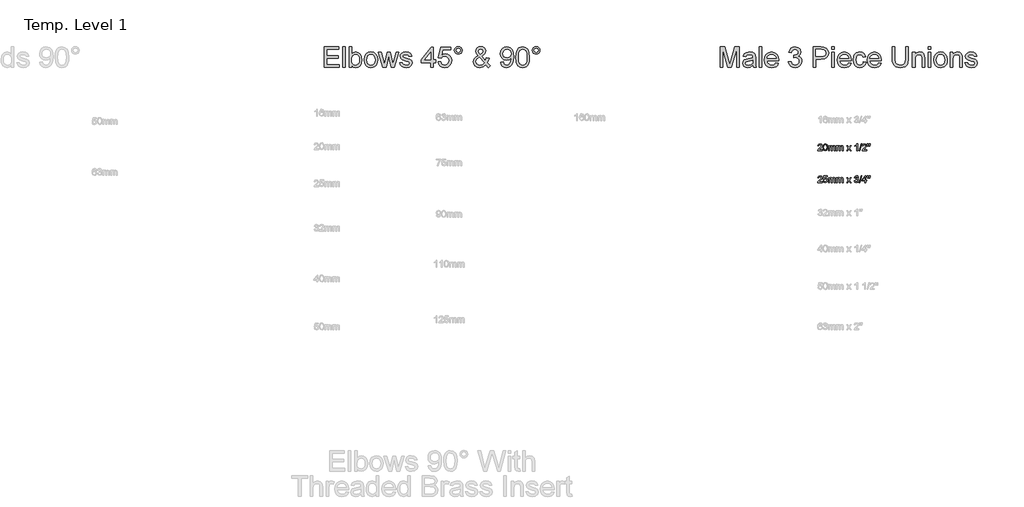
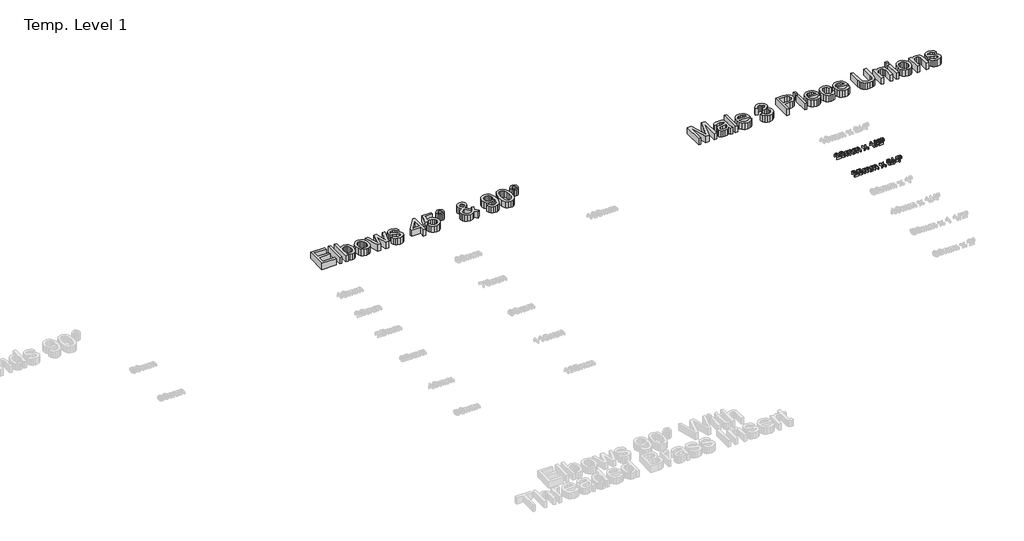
# One storey, part 62 of 62: 4 proxies.
"""IFC4 building model written with IfcOpenShell, lengths in millimetres."""

from ifc_helpers import new_model, si_unit, origin, origin_with_axes, place, context, project, spatial, polyline, outline, extrude, element, save

model = new_model("IFC4")

# Units and contexts
model_context = context("Model", 3, world=origin())
ifc_project = project(units=[si_unit("LENGTHUNIT", "METRE", prefix="MILLI")], contexts=[model_context])

# Site, building, storey
site = spatial("IfcSite", under=ifc_project)
building = spatial("IfcBuilding", under=site)
storey = spatial("IfcBuildingStorey", under=building, Name="Temp. Level 1", Elevation=0.0)

# Proxies
placement = place(None, origin())
element("IfcBuildingElementProxy", 1, Name="150mm Arial", ObjectType="150mm Arial", at=placement, inside=storey, context=model_context, shape_type="SweptSolid", body=[
    extrude(outline(polyline([(23642.6560981, 1929.801483), (23642.6560981, 2077.4937907), (23748.8099442, 2077.4937907), (23748.8099442, 2059.0322522), (23661.1176365, 2059.0322522), (23661.1176365, 2015.1860984), (23744.1945596, 2015.1860984), (23744.1945596, 1996.7245599), (23661.1176365, 1996.7245599), (23661.1176365, 1948.2630214), (23751.1176365, 1948.2630214), (23751.1176365, 1929.801483), (23642.6560981, 1929.801483)])), origin_with_axes(), (0.0, 0.0, 1.0), 50.0),
    extrude(outline(polyline([(23776.5022519, 1929.801483), (23776.5022519, 2077.4937907), (23794.9637904, 2077.4937907), (23794.9637904, 1929.801483), (23776.5022519, 1929.801483)])), origin_with_axes(), (0.0, 0.0, 1.0), 50.0),
    extrude(outline(polyline([(23841.1176365, 1929.801483), (23822.6560981, 1929.801483), (23822.6560981, 2077.4937907), (23841.1176365, 2077.4937907), (23841.1176365, 2022.7221561), (23854.0443192, 2036.1085743), (23870.1080212, 2040.5707138), (23888.6056173, 2036.5502811), (23902.9565788, 2025.2461945), (23911.7726846, 2007.6680695), (23914.9637904, 1985.6548484), (23911.6600043, 1961.0094157), (23901.7486462, 1942.6740791), (23887.2038745, 1931.2888628), (23869.9998481, 1927.4937907), (23853.5845837, 1932.3886224), (23841.1176365, 1947.0731176), (23841.1176365, 1929.801483)]), holes=[polyline([(23841.1176365, 1984.7894638), (23842.3796558, 1969.3928291), (23846.1657135, 1958.9721561), (23855.8381894, 1949.2095359), (23868.4133096, 1945.9553291), (23879.0683577, 1948.3531657), (23888.172925, 1955.5466753), (23894.4199202, 1967.4907859), (23896.5022519, 1984.1404253), (23894.5055572, 2001.0334541), (23888.5154731, 2012.8423484), (23879.6948601, 2019.7924686), (23869.2065788, 2022.1091753), (23858.5515308, 2019.7113388), (23849.4469635, 2012.5178291), (23843.1999683, 2000.7900647), (23841.1176365, 1984.7894638)])]), origin_with_axes(), (0.0, 0.0, 1.0), 50.0),
    extrude(outline(polyline([(23931.1176365, 1984.0322522), (23935.111026, 2010.1830936), (23947.0911942, 2028.5635022), (23961.8928769, 2037.5689109), (23979.6152327, 2040.5707138), (23999.0097639, 2036.9153652), (24014.50105, 2025.9493195), (24024.6557976, 2008.5379613), (24028.0407135, 1985.5466753), (24026.5443192, 1966.8958339), (24022.0551365, 1952.6981176), (24014.7038745, 1942.0656056), (24004.6212423, 1934.1103772), (23992.6455813, 1929.1479373), (23979.6152327, 1927.4937907), (23959.9863264, 1931.1356176), (23944.5130692, 1942.0610984), (23934.4664947, 1959.8375407), (23931.1176365, 1984.0322522)]), holes=[polyline([(23949.579175, 1984.0683099), (23951.7155933, 1967.3600767), (23958.1248481, 1955.4565311), (23967.7702808, 1948.3306296), (23979.6152327, 1945.9553291), (23991.4060981, 1948.3441513), (24001.0335019, 1955.5106176), (24007.4427567, 1967.5719157), (24009.579175, 1984.645233), (24007.4292351, 2000.8666873), (24000.9794154, 2012.6079734), (23991.3384899, 2019.7338748), (23979.6152327, 2022.1091753), (23967.7702808, 2019.7428892), (23958.1248481, 2012.6440311), (23951.7155933, 2000.7675287), (23949.579175, 1984.0683099)])]), origin_with_axes(), (0.0, 0.0, 1.0), 50.0),
    extrude(outline(polyline([(24066.8027327, 1929.801483), (24033.8099442, 2038.2630214), (24052.9926365, 2038.2630214), (24071.7065788, 1974.9817714), (24077.2955212, 1952.3735984), (24081.8748481, 1974.1524445), (24096.766675, 2038.2630214), (24118.7618673, 2038.2630214), (24133.5815788, 1974.332733), (24137.6560981, 1954.6091753), (24143.4974442, 1975.4144638), (24162.2474442, 2038.2630214), (24181.5022519, 2038.2630214), (24148.2570596, 1929.801483), (24125.9373481, 1929.801483), (24111.766675, 1993.4072522), (24107.6560981, 2013.238983), (24089.3748481, 1929.801483), (24066.8027327, 1929.801483)])), origin_with_axes(), (0.0, 0.0, 1.0), 50.0),
    extrude(outline(polyline([(24187.2714827, 1962.1091753), (24205.7330212, 1964.4168676), (24208.6446798, 1956.520233), (24214.2786942, 1950.7149445), (24233.8580212, 1945.9553291), (24252.6801365, 1950.3183099), (24258.8099442, 1960.5586945), (24252.6440788, 1968.8519638), (24233.641675, 1974.1163868), (24205.8411942, 1983.1488388), (24193.7077808, 1993.6957138), (24189.579175, 2008.5875407), (24192.8964827, 2022.3435503), (24201.9469635, 2032.8543676), (24213.6837423, 2038.317108), (24229.5671558, 2040.5707138), (24252.0310981, 2036.9469157), (24266.3099442, 2027.1392234), (24272.6560981, 2010.5707138), (24254.1945596, 2008.2630214), (24247.2534538, 2018.4493195), (24231.0094635, 2022.1091753), (24213.3411942, 2018.6115791), (24208.0407135, 2010.4625407), (24210.2402327, 2005.0899445), (24217.1272519, 2001.0154253), (24233.0286942, 1997.0851368), (24260.12605, 1988.395233), (24272.7101846, 1978.551483), (24277.2714827, 1962.5058099), (24271.9169154, 1944.8375407), (24256.4661942, 1932.0190311), (24233.6056173, 1927.4937907), (24214.9908337, 1929.6752811), (24201.4060981, 1936.2197522), (24192.3375885, 1947.0550888), (24187.2714827, 1962.1091753)])), origin_with_axes(), (0.0, 0.0, 1.0), 50.0),
    extrude(outline(polyline([(24411.1176365, 1929.801483), (24411.1176365, 1964.4168676), (24344.1945596, 1964.4168676), (24344.1945596, 1982.8784061), (24415.7330212, 2075.1860984), (24429.579175, 2075.1860984), (24429.579175, 1982.8784061), (24448.0407135, 1982.8784061), (24448.0407135, 1964.4168676), (24429.579175, 1964.4168676), (24429.579175, 1929.801483), (24411.1176365, 1929.801483)]), holes=[polyline([(24411.1176365, 1982.8784061), (24411.1176365, 2039.9216753), (24366.9109058, 1982.8784061), (24411.1176365, 1982.8784061)])]), origin_with_axes(), (0.0, 0.0, 1.0), 50.0),
    extrude(outline(polyline([(24464.1945596, 1969.0322522), (24482.6560981, 1971.3399445), (24486.0455212, 1960.2567113), (24491.9589827, 1952.3195118), (24500.3694394, 1947.5463748), (24511.2498481, 1945.9553291), (24524.4830212, 1948.16837), (24534.3988865, 1954.8074926), (24540.5917952, 1965.106471), (24542.6560981, 1978.2990791), (24540.7225043, 1990.7209541), (24534.9217231, 2000.2221561), (24525.2086822, 2006.2528051), (24511.5383096, 2008.2630214), (24495.3303769, 2005.0538868), (24484.9637904, 1996.7245599), (24466.5022519, 1999.0322522), (24482.6560981, 2075.1860984), (24554.1945596, 2075.1860984), (24554.1945596, 2056.7245599), (24497.5839827, 2056.7245599), (24489.6873481, 2016.051483), (24502.875449, 2024.0562907), (24516.6945596, 2026.7245599), (24533.9436582, 2023.4162666), (24548.2630692, 2013.4913868), (24557.9039947, 1998.3651849), (24561.1176365, 1979.4529253), (24558.2240067, 1960.9913868), (24549.5431173, 1945.1981176), (24532.9205212, 1931.9198724), (24511.1777327, 1927.4937907), (24493.0452207, 1930.3378412), (24478.5996077, 1938.8699926), (24468.6972639, 1952.0986585), (24464.1945596, 1969.0322522)])), origin_with_axes(), (0.0, 0.0, 1.0), 50.0),
    extrude(outline(polyline([(24581.8868673, 2052.145233), (24583.9196197, 2062.7912666), (24590.0178769, 2071.7245599), (24598.9646918, 2077.7822522), (24609.5431173, 2079.801483), (24620.2432375, 2077.7822522), (24629.1945596, 2071.7245599), (24635.2522519, 2062.7912666), (24637.2714827, 2052.145233), (24635.2387303, 2041.512721), (24629.1404731, 2032.5478772), (24620.1756293, 2026.44962), (24609.5431173, 2024.4168676), (24598.9646918, 2026.4360984), (24590.0178769, 2032.4937907), (24583.9196197, 2041.4451128), (24581.8868673, 2052.145233)]), holes=[polyline([(24593.4253288, 2052.1091753), (24598.1669154, 2040.6788868), (24609.6152327, 2035.9553291), (24620.9914346, 2040.6788868), (24625.7330212, 2052.1091753), (24620.9914346, 2063.5394638), (24609.6152327, 2068.2630214), (24598.1669154, 2063.5394638), (24593.4253288, 2052.1091753)])]), origin_with_axes(), (0.0, 0.0, 1.0), 50.0),
    extrude(outline(polyline([(24807.3556173, 1948.0466753), (24787.7762904, 1932.6320118), (24764.8796558, 1927.4937907), (24744.5070596, 1931.2978772), (24728.8219635, 1942.7101368), (24720.736026, 1955.8441513), (24718.0407135, 1970.4385022), (24720.2086822, 1983.3741993), (24726.7125885, 1994.9937907), (24737.5253889, 2005.2882618), (24752.6200404, 2014.2485984), (24739.7294154, 2032.926483), (24736.5022519, 2046.7726368), (24739.0443192, 2059.2395839), (24746.6705212, 2069.957733), (24758.1458817, 2077.3405455), (24772.235425, 2079.801483), (24785.6398721, 2077.4487186), (24796.3580212, 2070.3904253), (24803.3892712, 2060.0328532), (24805.7330212, 2047.7822522), (24803.9977447, 2037.4967955), (24798.7919154, 2027.9865791), (24777.9685981, 2011.2918676), (24804.6873481, 1978.0106176), (24812.6560981, 1998.4553291), (24831.1176365, 1994.4529253), (24818.0647519, 1964.0562907), (24840.3484058, 1941.7005214), (24826.5022519, 1927.4937907), (24807.3556173, 1948.0466753)]), holes=[polyline([(24794.9878288, 1961.3519638), (24762.0310981, 2002.4937907), (24741.7486462, 1987.0250407), (24736.5022519, 1972.8904253), (24738.2961221, 1964.1824926), (24743.6777327, 1955.1500407), (24752.3496077, 1948.254007), (24764.0142712, 1945.9553291), (24780.9794154, 1950.2461945), (24794.9878288, 1961.3519638)]), polyline([(24768.6296558, 2022.9385022), (24783.8099442, 2034.3868195), (24787.2714827, 2045.2582138), (24782.7101846, 2056.8507618), (24771.297925, 2061.3399445), (24759.6332615, 2056.8868195), (24754.9637904, 2046.0154253), (24756.5503288, 2039.254608), (24761.3460019, 2031.7365791), (24768.6296558, 2022.9385022)])]), origin_with_axes(), (0.0, 0.0, 1.0), 50.0),
    extrude(outline(polyline([(24914.1945596, 1966.7245599), (24932.6560981, 1969.0322522), (24935.8111462, 1958.5529854), (24940.9493673, 1951.4180695), (24956.6705212, 1945.9553291), (24971.6164346, 1949.4709541), (24981.7486462, 1958.863983), (24987.7883096, 1974.9096561), (24990.4565788, 1996.3279253), (24990.3484058, 1999.9336945), (24975.5827808, 1985.9433099), (24955.3363865, 1980.5707138), (24938.5019514, 1983.8519638), (24924.4890308, 1993.6957138), (24915.0374082, 2008.9030455), (24911.8868673, 2028.2750407), (24915.1906534, 2048.2870599), (24925.1020115, 2063.9721561), (24939.9893313, 2074.113382), (24958.2210019, 2077.4937907), (24971.9905332, 2075.5647041), (24984.5250885, 2069.7774445), (24995.0088625, 2060.4204734), (25002.62605, 2047.7822522), (25007.2639707, 2030.3123003), (25008.8099442, 2006.4601368), (25007.2684779, 1981.1701729), (25002.6440788, 1961.6223964), (24994.977312, 1946.933394), (24984.3087423, 1936.2197522), (24971.0981053, 1929.6752811), (24955.8051365, 1927.4937907), (24940.0208817, 1930.0674085), (24927.4277327, 1937.7882618), (24918.6206413, 1950.1695719), (24914.1945596, 1966.7245599)]), holes=[polyline([(24990.3484058, 2028.707733), (24988.3562183, 2041.2197522), (24982.3796558, 2050.8471561), (24973.1038144, 2056.9859782), (24961.2137904, 2059.0322522), (24948.8820596, 2056.8282258), (24939.0022519, 2050.2161464), (24932.5118673, 2040.0974565), (24930.3484058, 2027.3735984), (24932.3946798, 2015.965846), (24938.5335019, 2006.910858), (24948.1699202, 2001.0019037), (24960.7089827, 1999.0322522), (24972.5043553, 2001.0019037), (24982.00105, 2006.910858), (24988.2615668, 2016.2993796), (24990.3484058, 2028.707733)])]), origin_with_axes(), (0.0, 0.0, 1.0), 50.0),
    extrude(outline(polyline([(25024.9637904, 2002.457733), (25026.3204611, 2026.0980575), (25030.3904731, 2044.9517234), (25037.1332615, 2059.3071921), (25046.5082615, 2069.4529253), (25058.5830813, 2075.4835743), (25073.4253288, 2077.4937907), (25094.9878288, 2072.7341753), (25109.8796558, 2059.0142234), (25118.5335019, 2037.1632618), (25121.8868673, 2002.457733), (25120.5437183, 1978.9526248), (25116.5142712, 1960.1440311), (25109.8120476, 1945.7750407), (25100.4505692, 1935.5887426), (25088.3487063, 1929.5175287), (25073.4253288, 1927.4937907), (25054.2426365, 1931.0094157), (25039.6753288, 1941.5562907), (25028.641675, 1966.535257), (25024.9637904, 2002.457733)]), holes=[polyline([(25043.4253288, 2002.4937907), (25045.5887904, 1973.4538267), (25052.079175, 1956.6464349), (25061.7426365, 1948.6281056), (25073.4253288, 1945.9553291), (25085.1080212, 1948.63712), (25094.7714827, 1956.6824926), (25101.2618673, 1973.4988988), (25103.4253288, 2002.4937907), (25101.3339827, 2030.8802089), (25095.0599442, 2047.8183099), (25085.4145115, 2056.2287666), (25073.2089827, 2059.0322522), (25061.6524923, 2056.5623003), (25052.3676365, 2049.1524445), (25045.6609058, 2031.1596561), (25043.4253288, 2002.4937907)])]), origin_with_axes(), (0.0, 0.0, 1.0), 50.0),
    extrude(outline(polyline([(25142.6560981, 2052.145233), (25144.6888505, 2062.7912666), (25150.7871077, 2071.7245599), (25159.7339226, 2077.7822522), (25170.3123481, 2079.801483), (25181.0124683, 2077.7822522), (25189.9637904, 2071.7245599), (25196.0214827, 2062.7912666), (25198.0407135, 2052.145233), (25196.0079611, 2041.512721), (25189.9097038, 2032.5478772), (25180.9448601, 2026.44962), (25170.3123481, 2024.4168676), (25159.7339226, 2026.4360984), (25150.7871077, 2032.4937907), (25144.6888505, 2041.4451128), (25142.6560981, 2052.145233)]), holes=[polyline([(25154.1945596, 2052.1091753), (25158.9361462, 2040.6788868), (25170.3844635, 2035.9553291), (25181.7606654, 2040.6788868), (25186.5022519, 2052.1091753), (25181.7606654, 2063.5394638), (25170.3844635, 2068.2630214), (25158.9361462, 2063.5394638), (25154.1945596, 2052.1091753)])]), origin_with_axes(), (0.0, 0.0, 1.0), 50.0),
])
element("IfcBuildingElementProxy", 2, Name="150mm Arial", ObjectType="150mm Arial", at=placement, inside=storey, context=model_context, shape_type="SweptSolid", body=[
    extrude(outline(polyline([(26497.2714827, 1929.801483), (26497.2714827, 2077.4937907), (26529.0383096, 2077.4937907), (26559.2546558, 1973.395233), (26565.3484058, 1951.6524445), (26571.9469635, 1975.1981176), (26601.6585019, 2077.4937907), (26633.4253288, 2077.4937907), (26633.4253288, 1929.801483), (26614.9637904, 1929.801483), (26614.9637904, 2059.0322522), (26577.860425, 1929.801483), (26552.8363865, 1929.801483), (26515.7330212, 2059.0322522), (26515.7330212, 1929.801483), (26497.2714827, 1929.801483)])), origin_with_axes(), (0.0, 0.0, 1.0), 50.0),
    extrude(outline(polyline([(26732.6560981, 1943.6476368), (26714.7534538, 1931.1356176), (26694.9758096, 1927.4937907), (26679.5476245, 1929.6842955), (26668.1669154, 1936.2558099), (26661.149187, 1946.2347763), (26658.8099442, 1958.6476368), (26662.3435981, 1973.2510022), (26671.6284538, 1983.8519638), (26684.5551365, 1989.9096561), (26700.5286942, 1992.6860984), (26732.547925, 1999.0322522), (26732.6560981, 2003.1428291), (26731.3850644, 2011.3820118), (26727.5719635, 2016.7726368), (26719.0443192, 2020.7750407), (26707.1633096, 2022.1091753), (26688.485425, 2018.5574926), (26679.579175, 2005.9553291), (26661.1176365, 2008.2630214), (26669.1044154, 2026.2918676), (26685.1861462, 2036.8567714), (26709.5431173, 2040.5707138), (26731.9169154, 2037.2894638), (26744.5551365, 2029.0502811), (26750.2161942, 2016.520233), (26751.1176365, 2000.3663868), (26751.1176365, 1977.3976368), (26752.0551365, 1945.3243195), (26755.7330212, 1929.801483), (26737.2714827, 1929.801483), (26732.6560981, 1943.6476368)]), holes=[polyline([(26732.6560981, 1980.5707138), (26702.8724442, 1974.9096561), (26686.9890308, 1971.9168676), (26679.7955212, 1967.0490791), (26677.2714827, 1959.9457138), (26682.7702808, 1949.957733), (26698.9060981, 1945.9553291), (26717.5839827, 1950.3723964), (26729.6272519, 1961.0635022), (26732.547925, 1975.3423484), (26732.6560981, 1980.5707138)])]), origin_with_axes(), (0.0, 0.0, 1.0), 50.0),
    extrude(outline(polyline([(26776.5022519, 1929.801483), (26776.5022519, 2077.4937907), (26794.9637904, 2077.4937907), (26794.9637904, 1929.801483), (26776.5022519, 1929.801483)])), origin_with_axes(), (0.0, 0.0, 1.0), 50.0),
    extrude(outline(polyline([(26898.5935981, 1962.1091753), (26916.6945596, 1959.801483), (26910.1726245, 1946.1626609), (26899.7654731, 1935.9673484), (26885.7074803, 1929.6121801), (26868.2330212, 1927.4937907), (26846.5713625, 1931.1491392), (26829.9036942, 1942.1151849), (26819.2756894, 1959.6797883), (26815.7330212, 1983.1308099), (26819.3117471, 2007.3705936), (26830.047925, 2025.4985984), (26846.4902327, 2036.8026849), (26867.1873481, 2040.5707138), (26887.2399322, 2036.8116993), (26903.2630692, 2025.5346561), (26913.7693793, 2007.4427089), (26917.2714827, 1983.238983), (26917.1633096, 1978.2630214), (26834.1945596, 1978.2630214), (26837.3901726, 1964.4439109), (26844.81355, 1954.2846561), (26855.5271918, 1948.0376609), (26868.5935981, 1945.9553291), (26886.6945596, 1949.8135022), (26898.5935981, 1962.1091753)]), holes=[polyline([(26834.1945596, 1996.7245599), (26898.8099442, 1996.7245599), (26896.312949, 2006.4781657), (26891.4181173, 2013.4553291), (26880.6548962, 2019.9457138), (26867.1152327, 2022.1091753), (26854.6708216, 2020.3829133), (26844.3808577, 2015.2041272), (26837.227913, 2007.1317113), (26834.1945596, 1996.7245599)])]), origin_with_axes(), (0.0, 0.0, 1.0), 50.0),
    extrude(outline(polyline([(26988.8099442, 1969.0322522), (27007.2714827, 1971.3399445), (27011.4045957, 1959.738382), (27017.4577808, 1951.9048484), (27025.7285139, 1947.4427089), (27036.5142712, 1945.9553291), (27049.1705212, 1948.0016032), (27058.9421558, 1954.1404253), (27065.189151, 1963.2990791), (27067.2714827, 1974.4048484), (27065.2071798, 1984.9472162), (27059.0142712, 1993.4973964), (27049.6392712, 1999.1629613), (27038.0286942, 2001.051483), (27025.0839827, 1999.0322522), (27027.1392712, 2017.4937907), (27030.0960019, 2017.2774445), (27051.0455212, 2022.5779253), (27058.0226846, 2029.3026849), (27060.3484058, 2038.8760022), (27058.6627087, 2046.8492594), (27053.6056173, 2053.317108), (27045.8892712, 2057.6034662), (27036.2258096, 2059.0322522), (27026.5443192, 2057.5899445), (27018.6296558, 2053.2630214), (27012.8514106, 2046.051483), (27009.579175, 2035.9553291), (26991.1176365, 2038.2630214), (26996.5533337, 2054.8405455), (27006.2258096, 2067.2173484), (27019.4589827, 2074.9246801), (27035.5767712, 2077.4937907), (27057.8423962, 2072.4276849), (27073.4193192, 2058.5815311), (27078.8099442, 2039.957733), (27073.6897519, 2022.9385022), (27058.5455212, 2010.7149445), (27070.1020115, 2006.0454734), (27078.6657135, 1998.0947522), (27083.9661942, 1987.2954734), (27085.7330212, 1974.0803291), (27082.1993673, 1956.0875407), (27071.5984058, 1941.051483), (27055.5978048, 1930.8832138), (27035.8652327, 1927.4937907), (27018.016675, 1930.3874205), (27003.485425, 1939.0683099), (26993.3802567, 1952.3465551), (26988.8099442, 1969.0322522)])), origin_with_axes(), (0.0, 0.0, 1.0), 50.0),
    extrude(outline(polyline([(27166.5022519, 1929.801483), (27166.5022519, 2077.4937907), (27221.2378288, 2077.4937907), (27243.3051365, 2076.0875407), (27261.2438385, 2069.1824926), (27272.8724442, 2054.9036464), (27277.2714827, 2034.7654253), (27274.3012303, 2017.3585743), (27265.3904731, 2002.8543676), (27248.727312, 1993.0647041), (27222.4998481, 1989.801483), (27184.9637904, 1989.801483), (27184.9637904, 1929.801483), (27166.5022519, 1929.801483)]), holes=[polyline([(27184.9637904, 2008.2630214), (27223.5815788, 2008.2630214), (27239.9517712, 2009.957733), (27250.7690788, 2015.0418676), (27256.7997279, 2023.1999205), (27258.8099442, 2034.1163868), (27254.0683577, 2049.4048484), (27241.610425, 2057.770233), (27223.1488865, 2059.0322522), (27184.9637904, 2059.0322522), (27184.9637904, 2008.2630214)])]), origin_with_axes(), (0.0, 0.0, 1.0), 50.0),
    extrude(outline(polyline([(27300.3484058, 2059.0322522), (27300.3484058, 2077.4937907), (27318.8099442, 2077.4937907), (27318.8099442, 2059.0322522), (27300.3484058, 2059.0322522)])), origin_with_axes(), (0.0, 0.0, 1.0), 50.0),
    extrude(outline(polyline([(27300.3484058, 1929.801483), (27300.3484058, 2038.2630214), (27318.8099442, 2038.2630214), (27318.8099442, 1929.801483), (27300.3484058, 1929.801483)])), origin_with_axes(), (0.0, 0.0, 1.0), 50.0),
    extrude(outline(polyline([(27422.4397519, 1962.1091753), (27440.5407135, 1959.801483), (27434.0187784, 1946.1626609), (27423.6116269, 1935.9673484), (27409.5536341, 1929.6121801), (27392.079175, 1927.4937907), (27370.4175163, 1931.1491392), (27353.7498481, 1942.1151849), (27343.1218433, 1959.6797883), (27339.579175, 1983.1308099), (27343.157901, 2007.3705936), (27353.8940788, 2025.4985984), (27370.3363865, 2036.8026849), (27391.0335019, 2040.5707138), (27411.0860861, 2036.8116993), (27427.1092231, 2025.5346561), (27437.6155332, 2007.4427089), (27441.1176365, 1983.238983), (27441.0094635, 1978.2630214), (27358.0407135, 1978.2630214), (27361.2363264, 1964.4439109), (27368.6597038, 1954.2846561), (27379.3733457, 1948.0376609), (27392.4397519, 1945.9553291), (27410.5407135, 1949.8135022), (27422.4397519, 1962.1091753)]), holes=[polyline([(27358.0407135, 1996.7245599), (27422.6560981, 1996.7245599), (27420.1591029, 2006.4781657), (27415.2642712, 2013.4553291), (27404.50105, 2019.9457138), (27390.9613865, 2022.1091753), (27378.5169755, 2020.3829133), (27368.2270115, 2015.2041272), (27361.0740668, 2007.1317113), (27358.0407135, 1996.7245599)])]), origin_with_axes(), (0.0, 0.0, 1.0), 50.0),
    extrude(outline(polyline([(27528.8099442, 1969.0322522), (27547.2714827, 1966.7245599), (27542.1242471, 1950.3047883), (27532.4517712, 1937.8964349), (27519.1645115, 1930.0944517), (27503.172925, 1927.4937907), (27483.5350043, 1931.122096), (27468.1789346, 1942.0070118), (27458.2675764, 1959.6707738), (27454.9637904, 1983.6356176), (27460.6068192, 2014.3026849), (27467.7282135, 2025.8005815), (27477.8063385, 2034.0082138), (27489.8631293, 2038.9300888), (27502.9205212, 2040.5707138), (27518.5199803, 2038.317108), (27530.9914346, 2031.5562907), (27539.9382495, 2020.6488388), (27544.9637904, 2005.9553291), (27526.5022519, 2003.6476368), (27517.93855, 2017.4757618), (27503.0647519, 2022.1091753), (27491.134163, 2019.8285263), (27481.6645115, 2012.9865791), (27475.4851245, 2001.2137426), (27473.4253288, 1984.1404253), (27475.4400524, 1966.8372402), (27481.4842231, 1955.0238388), (27490.7826005, 1948.2224565), (27502.5599442, 1945.9553291), (27512.1197399, 1947.3705936), (27519.9577808, 1951.6163868), (27525.6594034, 1958.800882), (27528.8099442, 1969.0322522)])), origin_with_axes(), (0.0, 0.0, 1.0), 50.0),
    extrude(outline(polyline([(27639.3628288, 1962.1091753), (27657.4637904, 1959.801483), (27650.9418553, 1946.1626609), (27640.5347038, 1935.9673484), (27626.4767111, 1929.6121801), (27609.0022519, 1927.4937907), (27587.3405933, 1931.1491392), (27570.672925, 1942.1151849), (27560.0449202, 1959.6797883), (27556.5022519, 1983.1308099), (27560.0809779, 2007.3705936), (27570.8171558, 2025.4985984), (27587.2594635, 2036.8026849), (27607.9565788, 2040.5707138), (27628.009163, 2036.8116993), (27644.0323, 2025.5346561), (27654.5386101, 2007.4427089), (27658.0407135, 1983.238983), (27657.9325404, 1978.2630214), (27574.9637904, 1978.2630214), (27578.1594034, 1964.4439109), (27585.5827808, 1954.2846561), (27596.2964226, 1948.0376609), (27609.3628288, 1945.9553291), (27627.4637904, 1949.8135022), (27639.3628288, 1962.1091753)]), holes=[polyline([(27574.9637904, 1996.7245599), (27639.579175, 1996.7245599), (27637.0821798, 2006.4781657), (27632.1873481, 2013.4553291), (27621.4241269, 2019.9457138), (27607.8844635, 2022.1091753), (27595.4400524, 2020.3829133), (27585.1500885, 2015.2041272), (27577.9971438, 2007.1317113), (27574.9637904, 1996.7245599)])]), origin_with_axes(), (0.0, 0.0, 1.0), 50.0),
    extrude(outline(polyline([(27833.4253288, 2077.4937907), (27851.8868673, 2077.4937907), (27851.8868673, 1992.2894638), (27846.8748481, 1956.9709541), (27839.8526125, 1945.1169878), (27828.8099442, 1935.6969157), (27813.7198, 1929.5445719), (27794.5551365, 1927.4937907), (27775.8096438, 1929.2786464), (27760.8231654, 1934.6332138), (27749.5911942, 1943.3726969), (27742.1092231, 1955.3123003), (27737.9039947, 1971.3264229), (27736.5022519, 1992.2894638), (27736.5022519, 2077.4937907), (27754.9637904, 2077.4937907), (27754.9637904, 1992.9385022), (27758.6056173, 1964.7954734), (27763.5545356, 1956.7951729), (27771.1176365, 1950.8591753), (27792.8243673, 1945.9553291), (27811.6014106, 1948.3802089), (27824.0863865, 1955.6548484), (27831.0905933, 1969.8255214), (27833.4253288, 1992.9385022), (27833.4253288, 2077.4937907)])), origin_with_axes(), (0.0, 0.0, 1.0), 50.0),
    extrude(outline(polyline([(27881.8868673, 1929.801483), (27881.8868673, 2038.2630214), (27900.3484058, 2038.2630214), (27900.3484058, 2023.1187907), (27914.4649923, 2036.207733), (27933.7378288, 2040.5707138), (27951.1717231, 2037.0550888), (27963.0707615, 2027.8243195), (27968.6056173, 2014.2485984), (27969.579175, 1996.4000407), (27969.579175, 1929.801483), (27951.1176365, 1929.801483), (27951.1176365, 1993.9120599), (27948.9902327, 2010.2461945), (27941.4722038, 2018.8820118), (27928.797925, 2022.1091753), (27917.9851245, 2020.2972763), (27908.7678769, 2014.8615791), (27902.4532736, 2004.3597763), (27900.3484058, 1987.3495599), (27900.3484058, 1929.801483), (27881.8868673, 1929.801483)])), origin_with_axes(), (0.0, 0.0, 1.0), 50.0),
    extrude(outline(polyline([(27994.9637904, 1929.801483), (27994.9637904, 2038.2630214), (28013.4253288, 2038.2630214), (28013.4253288, 1929.801483), (27994.9637904, 1929.801483)])), origin_with_axes(), (0.0, 0.0, 1.0), 50.0),
    extrude(outline(polyline([(27994.9637904, 2059.0322522), (27994.9637904, 2077.4937907), (28013.4253288, 2077.4937907), (28013.4253288, 2059.0322522), (27994.9637904, 2059.0322522)])), origin_with_axes(), (0.0, 0.0, 1.0), 50.0),
    extrude(outline(polyline([(28036.5022519, 1984.0322522), (28040.4956413, 2010.1830936), (28052.4758096, 2028.5635022), (28067.2774923, 2037.5689109), (28084.9998481, 2040.5707138), (28104.3943793, 2036.9153652), (28119.8856654, 2025.9493195), (28130.040413, 2008.5379613), (28133.4253288, 1985.5466753), (28131.9289346, 1966.8958339), (28127.4397519, 1952.6981176), (28120.0884899, 1942.0656056), (28110.0058577, 1934.1103772), (28098.0301966, 1929.1479373), (28084.9998481, 1927.4937907), (28065.3709418, 1931.1356176), (28049.8976846, 1942.0610984), (28039.8511101, 1959.8375407), (28036.5022519, 1984.0322522)]), holes=[polyline([(28054.9637904, 1984.0683099), (28057.1002087, 1967.3600767), (28063.5094635, 1955.4565311), (28073.1548962, 1948.3306296), (28084.9998481, 1945.9553291), (28096.7907135, 1948.3441513), (28106.4181173, 1955.5106176), (28112.8273721, 1967.5719157), (28114.9637904, 1984.645233), (28112.8138505, 2000.8666873), (28106.3640308, 2012.6079734), (28096.7231053, 2019.7338748), (28084.9998481, 2022.1091753), (28073.1548962, 2019.7428892), (28063.5094635, 2012.6440311), (28057.1002087, 2000.7675287), (28054.9637904, 1984.0683099)])]), origin_with_axes(), (0.0, 0.0, 1.0), 50.0),
    extrude(outline(polyline([(28154.1945596, 1929.801483), (28154.1945596, 2038.2630214), (28172.6560981, 2038.2630214), (28172.6560981, 2023.1187907), (28186.7726846, 2036.207733), (28206.0455212, 2040.5707138), (28223.4794154, 2037.0550888), (28235.3784538, 2027.8243195), (28240.9133096, 2014.2485984), (28241.8868673, 1996.4000407), (28241.8868673, 1929.801483), (28223.4253288, 1929.801483), (28223.4253288, 1993.9120599), (28221.297925, 2010.2461945), (28213.7798962, 2018.8820118), (28201.1056173, 2022.1091753), (28190.2928168, 2020.2972763), (28181.0755692, 2014.8615791), (28174.7609659, 2004.3597763), (28172.6560981, 1987.3495599), (28172.6560981, 1929.801483), (28154.1945596, 1929.801483)])), origin_with_axes(), (0.0, 0.0, 1.0), 50.0),
    extrude(outline(polyline([(28260.3484058, 1962.1091753), (28278.8099442, 1964.4168676), (28281.7216029, 1956.520233), (28287.3556173, 1950.7149445), (28306.9349442, 1945.9553291), (28325.7570596, 1950.3183099), (28331.8868673, 1960.5586945), (28325.7210019, 1968.8519638), (28306.7185981, 1974.1163868), (28278.9181173, 1983.1488388), (28266.7847038, 1993.6957138), (28262.6560981, 2008.5875407), (28265.9734058, 2022.3435503), (28275.0238865, 2032.8543676), (28286.7606654, 2038.317108), (28302.6440788, 2040.5707138), (28325.1080212, 2036.9469157), (28339.3868673, 2027.1392234), (28345.7330212, 2010.5707138), (28327.2714827, 2008.2630214), (28320.3303769, 2018.4493195), (28304.0863865, 2022.1091753), (28286.4181173, 2018.6115791), (28281.1176365, 2010.4625407), (28283.3171558, 2005.0899445), (28290.204175, 2001.0154253), (28306.1056173, 1997.0851368), (28333.2029731, 1988.395233), (28345.7871077, 1978.551483), (28350.3484058, 1962.5058099), (28344.9938385, 1944.8375407), (28329.5431173, 1932.0190311), (28306.6825404, 1927.4937907), (28288.0677567, 1929.6752811), (28274.4830212, 1936.2197522), (28265.4145115, 1947.0550888), (28260.3484058, 1962.1091753)])), origin_with_axes(), (0.0, 0.0, 1.0), 50.0),
])
element("IfcBuildingElementProxy", 3, Name="50mm Arial", ObjectType="50mm Arial", at=placement, inside=storey, context=model_context, shape_type="SweptSolid", body=[
    extrude(outline(polyline([(27232.3070477, 1335.9553291), (27232.3070477, 1329.801483), (27199.9993554, 1329.801483), (27200.6604131, 1334.0442714), (27204.3983938, 1340.5767234), (27212.1027207, 1347.7101368), (27222.7277207, 1357.9625407), (27225.3839707, 1364.9336945), (27222.8779611, 1370.5767234), (27216.33349, 1372.8784061), (27209.5125765, 1370.6308099), (27206.9224323, 1364.4168676), (27200.7685861, 1365.1860984), (27205.4861342, 1375.4865791), (27216.4657015, 1379.0322522), (27227.4813265, 1375.0899445), (27231.5378169, 1365.3062907), (27230.4440669, 1359.4709541), (27226.8082496, 1353.4373003), (27217.9921438, 1345.0058099), (27210.9128169, 1339.0863388), (27208.1363746, 1335.9553291), (27232.3070477, 1335.9553291)])), origin_with_axes(), (0.0, 0.0, 1.0), 15.0),
    extrude(outline(polyline([(27238.4608938, 1354.020233), (27240.2697881, 1368.1848964), (27245.6423842, 1376.3519638), (27254.61474, 1379.0322522), (27261.80224, 1377.4457138), (27266.7661823, 1372.8723964), (27269.6507977, 1365.5887426), (27270.7685861, 1354.020233), (27268.9777207, 1339.9156657), (27263.6231534, 1331.7305695), (27254.61474, 1329.0322522), (27243.36474, 1333.7197522), (27239.6868554, 1342.0460743), (27238.4608938, 1354.020233)]), holes=[polyline([(27244.61474, 1354.0322522), (27247.4993554, 1338.7498003), (27254.61474, 1335.1860984), (27261.7301246, 1338.7618195), (27264.61474, 1354.0322522), (27261.8262784, 1369.1404253), (27254.5426246, 1372.8784061), (27247.5955092, 1369.5851368), (27244.61474, 1354.0322522)])]), origin_with_axes(), (0.0, 0.0, 1.0), 15.0),
    extrude(outline(polyline([(27277.6916631, 1329.801483), (27277.6916631, 1365.9553291), (27283.8455092, 1365.9553291), (27283.8455092, 1360.0058099), (27288.0762784, 1364.879608), (27294.0979131, 1366.7245599), (27300.2637784, 1364.8435503), (27303.6532015, 1359.5731176), (27308.4548842, 1364.9366993), (27314.5185861, 1366.7245599), (27322.5654611, 1363.7498003), (27325.3839707, 1354.5851368), (27325.3839707, 1329.801483), (27319.2301246, 1329.801483), (27319.2301246, 1351.9409061), (27318.6592111, 1357.0791272), (27316.5919034, 1359.6091753), (27313.0762784, 1360.5707138), (27307.0245957, 1358.1067714), (27304.61474, 1350.2101368), (27304.61474, 1329.801483), (27298.4608938, 1329.801483), (27298.4608938, 1352.6260022), (27297.036615, 1358.5875407), (27292.3671438, 1360.5707138), (27287.8118554, 1359.2485984), (27284.7830092, 1355.3784061), (27283.8455092, 1348.0346561), (27283.8455092, 1329.801483), (27277.6916631, 1329.801483)])), origin_with_axes(), (0.0, 0.0, 1.0), 15.0),
    extrude(outline(polyline([(27334.61474, 1329.801483), (27334.61474, 1365.9553291), (27340.7685861, 1365.9553291), (27340.7685861, 1360.0058099), (27344.9993554, 1364.879608), (27351.02099, 1366.7245599), (27357.1868554, 1364.8435503), (27360.5762784, 1359.5731176), (27365.3779611, 1364.9366993), (27371.4416631, 1366.7245599), (27379.4885381, 1363.7498003), (27382.3070477, 1354.5851368), (27382.3070477, 1329.801483), (27376.1532015, 1329.801483), (27376.1532015, 1351.9409061), (27375.5822881, 1357.0791272), (27373.5149804, 1359.6091753), (27369.9993554, 1360.5707138), (27363.9476727, 1358.1067714), (27361.5378169, 1350.2101368), (27361.5378169, 1329.801483), (27355.3839707, 1329.801483), (27355.3839707, 1352.6260022), (27353.9596919, 1358.5875407), (27349.2902207, 1360.5707138), (27344.7349323, 1359.2485984), (27341.7060861, 1355.3784061), (27340.7685861, 1348.0346561), (27340.7685861, 1329.801483), (27334.61474, 1329.801483)])), origin_with_axes(), (0.0, 0.0, 1.0), 15.0),
    extrude(outline(polyline([(27406.9224323, 1329.801483), (27420.0714707, 1347.9745599), (27407.6916631, 1365.9553291), (27415.0955092, 1365.9553291), (27421.0690669, 1357.301483), (27423.8575284, 1353.2149445), (27426.2733938, 1356.5562907), (27433.0762784, 1365.9553291), (27440.4801246, 1365.9553291), (27427.4753169, 1347.9745599), (27439.9993554, 1329.801483), (27432.5955092, 1329.801483), (27425.0594515, 1340.7269638), (27423.67724, 1342.7221561), (27414.3262784, 1329.801483), (27406.9224323, 1329.801483)])), origin_with_axes(), (0.0, 0.0, 1.0), 15.0),
    extrude(outline(polyline([(27486.1532015, 1329.801483), (27479.9993554, 1329.801483), (27479.9993554, 1368.1668676), (27474.1700284, 1364.0142234), (27467.6916631, 1360.9072522), (27467.6916631, 1366.7245599), (27476.7120957, 1372.4817714), (27482.1868554, 1379.0322522), (27486.1532015, 1379.0322522), (27486.1532015, 1329.801483)])), origin_with_axes(), (0.0, 0.0, 1.0), 15.0),
    extrude(outline(polyline([(27497.6916631, 1329.801483), (27511.5378169, 1379.0322522), (27517.0907015, 1379.0322522), (27503.2445477, 1329.801483), (27497.6916631, 1329.801483)])), origin_with_axes(), (0.0, 0.0, 1.0), 15.0),
    extrude(outline(polyline([(27551.5378169, 1335.9553291), (27551.5378169, 1329.801483), (27519.2301246, 1329.801483), (27519.8911823, 1334.0442714), (27523.6291631, 1340.5767234), (27531.33349, 1347.7101368), (27541.95849, 1357.9625407), (27544.61474, 1364.9336945), (27542.1087304, 1370.5767234), (27535.5642592, 1372.8784061), (27528.7433457, 1370.6308099), (27526.1532015, 1364.4168676), (27519.9993554, 1365.1860984), (27524.7169034, 1375.4865791), (27535.6964707, 1379.0322522), (27546.7120957, 1375.0899445), (27550.7685861, 1365.3062907), (27549.6748361, 1359.4709541), (27546.0390188, 1353.4373003), (27537.2229131, 1345.0058099), (27530.1435861, 1339.0863388), (27527.3671438, 1335.9553291), (27551.5378169, 1335.9553291)])), origin_with_axes(), (0.0, 0.0, 1.0), 15.0),
    extrude(outline(polyline([(27571.4657015, 1361.3399445), (27569.9993554, 1370.8471561), (27569.9993554, 1379.0322522), (27576.1532015, 1379.0322522), (27576.1532015, 1370.8471561), (27574.7108938, 1361.3399445), (27571.4657015, 1361.3399445)])), origin_with_axes(), (0.0, 0.0, 1.0), 15.0),
    extrude(outline(polyline([(27559.1940669, 1361.3399445), (27557.6916631, 1370.8471561), (27557.6916631, 1379.0322522), (27563.8455092, 1379.0322522), (27563.8455092, 1370.8471561), (27562.4993554, 1361.3399445), (27559.1940669, 1361.3399445)])), origin_with_axes(), (0.0, 0.0, 1.0), 15.0),
])
element("IfcBuildingElementProxy", 4, Name="50mm Arial", ObjectType="50mm Arial", at=placement, inside=storey, context=model_context, shape_type="SweptSolid", body=[
    extrude(outline(polyline([(27232.3070477, 1105.9553291), (27232.3070477, 1099.801483), (27199.9993554, 1099.801483), (27200.6604131, 1104.0442714), (27204.3983938, 1110.5767234), (27212.1027207, 1117.7101368), (27222.7277207, 1127.9625407), (27225.3839707, 1134.9336945), (27222.8779611, 1140.5767234), (27216.33349, 1142.8784061), (27209.5125765, 1140.6308099), (27206.9224323, 1134.4168676), (27200.7685861, 1135.1860984), (27205.4861342, 1145.4865791), (27216.4657015, 1149.0322522), (27227.4813265, 1145.0899445), (27231.5378169, 1135.3062907), (27230.4440669, 1129.4709541), (27226.8082496, 1123.4373003), (27217.9921438, 1115.0058099), (27210.9128169, 1109.0863388), (27208.1363746, 1105.9553291), (27232.3070477, 1105.9553291)])), origin_with_axes(), (0.0, 0.0, 1.0), 15.0),
    extrude(outline(polyline([(27238.4608938, 1112.8784061), (27244.61474, 1113.6476368), (27247.7157015, 1107.3074926), (27254.14599, 1105.1860984), (27261.8623361, 1108.1368195), (27264.61474, 1115.9673484), (27262.036615, 1123.2750407), (27254.2421438, 1125.9553291), (27248.8394996, 1124.8856176), (27245.3839707, 1122.1091753), (27239.2301246, 1122.8784061), (27244.61474, 1148.2630214), (27268.4608938, 1148.2630214), (27268.4608938, 1142.1091753), (27249.5907015, 1142.1091753), (27246.95849, 1128.551483), (27255.9608938, 1132.1091753), (27266.4837304, 1127.6981176), (27270.7685861, 1116.3519638), (27266.9104131, 1104.9336945), (27261.3695477, 1100.5076128), (27254.1219515, 1099.0322522), (27243.2625765, 1102.8243195), (27238.4608938, 1112.8784061)])), origin_with_axes(), (0.0, 0.0, 1.0), 15.0),
    extrude(outline(polyline([(27277.6916631, 1099.801483), (27277.6916631, 1135.9553291), (27283.8455092, 1135.9553291), (27283.8455092, 1130.0058099), (27288.0762784, 1134.879608), (27294.0979131, 1136.7245599), (27300.2637784, 1134.8435503), (27303.6532015, 1129.5731176), (27308.4548842, 1134.9366993), (27314.5185861, 1136.7245599), (27322.5654611, 1133.7498003), (27325.3839707, 1124.5851368), (27325.3839707, 1099.801483), (27319.2301246, 1099.801483), (27319.2301246, 1121.9409061), (27318.6592111, 1127.0791272), (27316.5919034, 1129.6091753), (27313.0762784, 1130.5707138), (27307.0245957, 1128.1067714), (27304.61474, 1120.2101368), (27304.61474, 1099.801483), (27298.4608938, 1099.801483), (27298.4608938, 1122.6260022), (27297.036615, 1128.5875407), (27292.3671438, 1130.5707138), (27287.8118554, 1129.2485984), (27284.7830092, 1125.3784061), (27283.8455092, 1118.0346561), (27283.8455092, 1099.801483), (27277.6916631, 1099.801483)])), origin_with_axes(), (0.0, 0.0, 1.0), 15.0),
    extrude(outline(polyline([(27334.61474, 1099.801483), (27334.61474, 1135.9553291), (27340.7685861, 1135.9553291), (27340.7685861, 1130.0058099), (27344.9993554, 1134.879608), (27351.02099, 1136.7245599), (27357.1868554, 1134.8435503), (27360.5762784, 1129.5731176), (27365.3779611, 1134.9366993), (27371.4416631, 1136.7245599), (27379.4885381, 1133.7498003), (27382.3070477, 1124.5851368), (27382.3070477, 1099.801483), (27376.1532015, 1099.801483), (27376.1532015, 1121.9409061), (27375.5822881, 1127.0791272), (27373.5149804, 1129.6091753), (27369.9993554, 1130.5707138), (27363.9476727, 1128.1067714), (27361.5378169, 1120.2101368), (27361.5378169, 1099.801483), (27355.3839707, 1099.801483), (27355.3839707, 1122.6260022), (27353.9596919, 1128.5875407), (27349.2902207, 1130.5707138), (27344.7349323, 1129.2485984), (27341.7060861, 1125.3784061), (27340.7685861, 1118.0346561), (27340.7685861, 1099.801483), (27334.61474, 1099.801483)])), origin_with_axes(), (0.0, 0.0, 1.0), 15.0),
    extrude(outline(polyline([(27406.9224323, 1099.801483), (27420.0714707, 1117.9745599), (27407.6916631, 1135.9553291), (27415.0955092, 1135.9553291), (27421.0690669, 1127.301483), (27423.8575284, 1123.2149445), (27426.2733938, 1126.5562907), (27433.0762784, 1135.9553291), (27440.4801246, 1135.9553291), (27427.4753169, 1117.9745599), (27439.9993554, 1099.801483), (27432.5955092, 1099.801483), (27425.0594515, 1110.7269638), (27423.67724, 1112.7221561), (27414.3262784, 1099.801483), (27406.9224323, 1099.801483)])), origin_with_axes(), (0.0, 0.0, 1.0), 15.0),
    extrude(outline(polyline([(27463.0762784, 1112.8784061), (27469.2301246, 1113.6476368), (27472.6255573, 1107.1692714), (27478.9777207, 1105.1860984), (27486.4536823, 1107.9144638), (27489.2301246, 1114.6692714), (27486.4777207, 1121.0334541), (27479.4825284, 1123.551483), (27475.1676246, 1122.8784061), (27475.8527207, 1129.0322522), (27483.8214707, 1130.7269638), (27486.9224323, 1136.1596561), (27484.6748361, 1140.973358), (27478.8815669, 1142.8784061), (27473.0161823, 1140.9553291), (27469.9993554, 1135.1860984), (27463.8455092, 1135.9553291), (27468.8815669, 1145.6067714), (27478.6652207, 1149.0322522), (27486.0870957, 1147.3435503), (27491.2794034, 1142.7281657), (27493.0762784, 1136.520233), (27491.3695477, 1130.8471561), (27486.3214707, 1126.7726368), (27493.0282015, 1122.5659061), (27495.3839707, 1114.5610984), (27490.6724323, 1103.551483), (27478.7613746, 1099.0322522), (27467.9681054, 1102.8904253), (27463.0762784, 1112.8784061)])), origin_with_axes(), (0.0, 0.0, 1.0), 15.0),
    extrude(outline(polyline([(27497.6916631, 1099.801483), (27511.5378169, 1149.0322522), (27517.0907015, 1149.0322522), (27503.2445477, 1099.801483), (27497.6916631, 1099.801483)])), origin_with_axes(), (0.0, 0.0, 1.0), 15.0),
    extrude(outline(polyline([(27539.9993554, 1099.801483), (27539.9993554, 1111.3399445), (27517.6916631, 1111.3399445), (27517.6916631, 1117.4937907), (27541.5378169, 1148.2630214), (27546.1532015, 1148.2630214), (27546.1532015, 1117.4937907), (27552.3070477, 1117.4937907), (27552.3070477, 1111.3399445), (27546.1532015, 1111.3399445), (27546.1532015, 1099.801483), (27539.9993554, 1099.801483)]), holes=[polyline([(27539.9993554, 1117.4937907), (27539.9993554, 1136.5082138), (27525.2637784, 1117.4937907), (27539.9993554, 1117.4937907)])]), origin_with_axes(), (0.0, 0.0, 1.0), 15.0),
    extrude(outline(polyline([(27571.4657015, 1131.3399445), (27569.9993554, 1140.8471561), (27569.9993554, 1149.0322522), (27576.1532015, 1149.0322522), (27576.1532015, 1140.8471561), (27574.7108938, 1131.3399445), (27571.4657015, 1131.3399445)])), origin_with_axes(), (0.0, 0.0, 1.0), 15.0),
    extrude(outline(polyline([(27559.1940669, 1131.3399445), (27557.6916631, 1140.8471561), (27557.6916631, 1149.0322522), (27563.8455092, 1149.0322522), (27563.8455092, 1140.8471561), (27562.4993554, 1131.3399445), (27559.1940669, 1131.3399445)])), origin_with_axes(), (0.0, 0.0, 1.0), 15.0),
])

save(model, "model.ifc")
